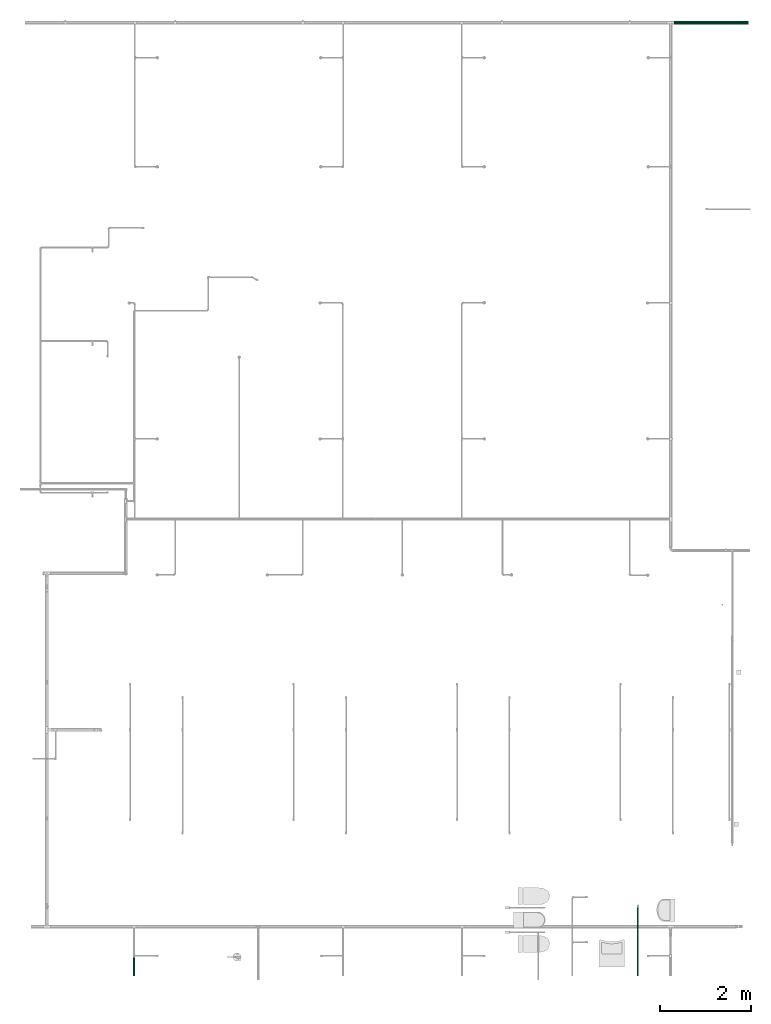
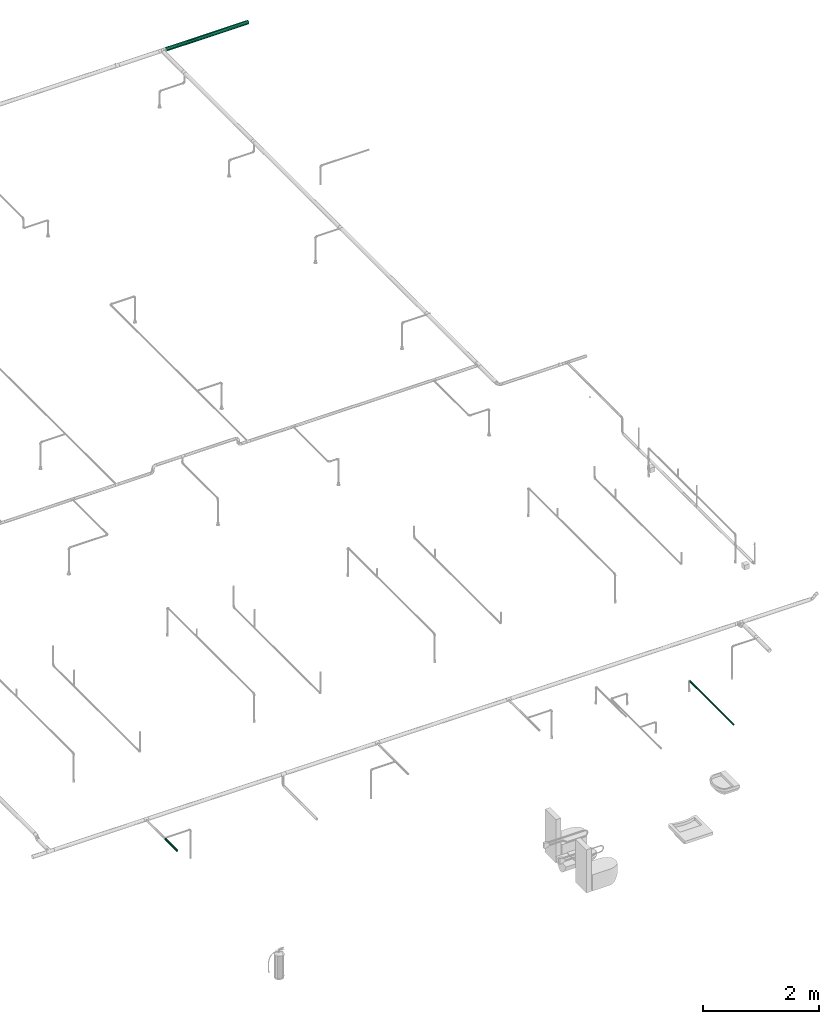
# One storey, part 82 of 95: 3 flow segments.
"""IFC2X3 building model written with IfcOpenShell, lengths in millimetres."""

import ifcopenshell
import ifcopenshell.guid

model = None  # the IFC model being written
_history = None  # IfcOwnerHistory: only IFC2X3 demands one
_inside = {}  # id of a spatial element -> (the spatial element, [elements in it])
_under = {}  # id of a project, library or spatial element -> (it, [spatial elements below it])
_declared = {}  # id of a project -> (the project, [libraries it declares])
_typed = {}  # id of a type object -> (the type object, [elements of that type])
_made_of = {}  # id of a material, layer set ... -> (it, [elements and type objects made of it])


def new_model(schema):
    """Start an empty IFC model of exactly this schema.

    Asked for "IFC4X3", IfcOpenShell would pick the latest addendum, in which some entities
    have other attributes; the version numbers below select the first issue.
    IFC2X3 requires an IfcOwnerHistory on every rooted entity: one is made here for all.
    """
    global model, _history
    if schema == "IFC4X3":
        model = ifcopenshell.file(schema_version=(4, 3, 0, 0))
    else:
        model = ifcopenshell.file(schema=schema)
    _inside.clear()
    _under.clear()
    _declared.clear()
    _typed.clear()
    _made_of.clear()
    _history = None
    if model.schema == "IFC2X3":
        org = make("IfcOrganization", Name="unknown")
        user = make(
            "IfcPersonAndOrganization",
            ThePerson=make("IfcPerson", FamilyName="unknown"),
            TheOrganization=org,
        )
        app = make(
            "IfcApplication",
            ApplicationDeveloper=org,
            Version="unknown",
            ApplicationFullName="unknown",
            ApplicationIdentifier="unknown",
        )
        _history = make(
            "IfcOwnerHistory",
            OwningUser=user,
            OwningApplication=app,
            ChangeAction="ADDED",
            CreationDate=0,
        )
    return model


def make(cls, **values):
    """One entity of the class cls with the attributes given. An attribute that is None is left unset."""
    return model.create_entity(
        cls, **{name: value for name, value in values.items() if value is not None}
    )


def entity(cls, *values):
    """Any entity or typed value of the class cls, its attributes in the order of the schema. None: left unset."""
    e = model.create_entity(cls)
    for i, value in enumerate(values):
        if value is not None:
            e[i] = value
    return e


def rooted(cls, **values):
    """An entity with a GlobalId (a new one), such as an element, a storey or a relation."""
    return make(cls, GlobalId=ifcopenshell.guid.new(), OwnerHistory=_history, **values)


def si_unit(unit_type, name, prefix=None):
    """IfcSIUnit, for example si_unit("LENGTHUNIT", "METRE", prefix="MILLI")."""
    return make("IfcSIUnit", UnitType=unit_type, Prefix=prefix, Name=name)


def converted_unit(unit_type, name, factor, base, dimensions=None, offset=None):
    """IfcConversionBasedUnit, such as the inch: factor (a typed value) times the base unit."""
    return make(
        "IfcConversionBasedUnit"
        if offset is None
        else "IfcConversionBasedUnitWithOffset",
        ConversionOffset=offset,
        Dimensions=None
        if dimensions is None
        else entity("IfcDimensionalExponents", *dimensions),
        UnitType=unit_type,
        Name=name,
        ConversionFactor=make(
            "IfcMeasureWithUnit", ValueComponent=factor, UnitComponent=base
        ),
    )


def derived_unit(unit_type, elements):
    """IfcDerivedUnit: a product of units, each with its exponent."""
    return make(
        "IfcDerivedUnit",
        Elements=[
            make("IfcDerivedUnitElement", Unit=unit, Exponent=power)
            for unit, power in elements
        ],
        UnitType=unit_type,
    )


def assignment(units):
    """IfcUnitAssignment: the units of a project."""
    return None if units is None else make("IfcUnitAssignment", Units=units)


def point(xyz):
    """IfcCartesianPoint."""
    return None if xyz is None else make("IfcCartesianPoint", Coordinates=xyz)


def direction(xyz):
    """IfcDirection."""
    return None if xyz is None else make("IfcDirection", DirectionRatios=xyz)


def frame(location, z_axis=None, x_axis=None):
    """IfcAxis2Placement3D, a coordinate frame: its origin and axes. An axis left out is left unset."""
    return make(
        "IfcAxis2Placement3D",
        Location=point(location),
        Axis=direction(z_axis),
        RefDirection=direction(x_axis),
    )


def place(relative_to, where):
    """IfcLocalPlacement: puts the frame where relative to a parent placement (None: the world)."""
    return make(
        "IfcLocalPlacement", PlacementRelTo=relative_to, RelativePlacement=where
    )


def context(
    kind, dimensions, precision=None, world=None, true_north=None, identifier=None
):
    """IfcGeometricRepresentationContext, for example the 3D "Model" context."""
    return make(
        "IfcGeometricRepresentationContext",
        ContextIdentifier=identifier,
        ContextType=kind,
        CoordinateSpaceDimension=dimensions,
        Precision=precision,
        WorldCoordinateSystem=world,
        TrueNorth=true_north,
    )


def subcontext(parent, identifier, kind, view, scale=None):
    """IfcGeometricRepresentationSubContext, for example "Body" below "Model"."""
    return make(
        "IfcGeometricRepresentationSubContext",
        ContextIdentifier=identifier,
        ContextType=kind,
        ParentContext=parent,
        TargetScale=scale,
        TargetView=view,
    )


def project(units=None, contexts=None):
    """IfcProject with its units and contexts."""
    return rooted(
        "IfcProject",
        Name="project",
        RepresentationContexts=contexts,
        UnitsInContext=assignment(units),
    )


def spatial(cls, under=None, at=None, **own):
    """A site, building, storey or space (cls), placed at a placement, below another one or the project."""
    s = rooted(cls, ObjectPlacement=at, **own)
    if under is not None:
        _under.setdefault(under.id(), (under, []))[1].append(s)
    return s


def faces_of(points, faces, orient=None, outer=None):
    """IfcFace entities. A face is a list of loops; a loop is a list of indices into points, from 0.

    orient and outer hold one flag for each loop. By default every Orientation is true, the
    first loop of a face is its IfcFaceOuterBound and the others are IfcFaceBound.
    """
    made = []
    for i, loops in enumerate(faces):
        bounds = []
        for j, loop in enumerate(loops):
            is_outer = j == 0 if outer is None else outer[i][j]
            bounds.append(
                make(
                    "IfcFaceOuterBound" if is_outer else "IfcFaceBound",
                    Bound=make("IfcPolyLoop", Polygon=[points[k] for k in loop]),
                    Orientation=True if orient is None else orient[i][j],
                )
            )
        made.append(make("IfcFace", Bounds=bounds))
    return made


def faceted_brep(points, faces, orient=None, outer=None, voids=None):
    """IfcFacetedBrep: a solid bounded by flat faces; with voids (closed shells), ...WithVoids."""
    shared = [point(p) for p in points]
    hull = make("IfcClosedShell", CfsFaces=faces_of(shared, faces, orient, outer))
    if voids is None:
        return make("IfcFacetedBrep", Outer=hull)
    return make(
        "IfcFacetedBrepWithVoids",
        Outer=hull,
        Voids=[
            make(cls, CfsFaces=faces_of(shared, fs, o, b)) for cls, fs, o, b in voids
        ],
    )


def shape(context_of_items, identifier, shape_type, items):
    """IfcShapeRepresentation: the items that make up one representation, for example the "Body"."""
    return make(
        "IfcShapeRepresentation",
        ContextOfItems=context_of_items,
        RepresentationIdentifier=identifier,
        RepresentationType=shape_type,
        Items=items,
    )


def made_of(thing, what):
    """Note that an element or type object is made of a material, layer set ...; save() writes the relation."""
    if what is not None:
        _made_of.setdefault(what.id(), (what, []))[1].append(thing)
    return thing


def type_object(cls, material=None, **own):
    """A type object (cls), such as IfcWallType, which elements share."""
    return made_of(rooted(cls, **own), material)


def element(
    cls,
    number,
    at=None,
    inside=None,
    cuts=None,
    type_object=None,
    material=None,
    context=None,
    identifier="Body",
    shape_type=None,
    held_by="IfcProductDefinitionShape",
    body=None,
    shapes=None,
    **own,
):
    """One element of the class cls, such as IfcWall. Its Tag is "e" and its number.

    at: its placement. inside: the storey or other place that contains it. cuts: it is an
    opening in that element (IfcRelVoidsElement). A single representation is given by context,
    identifier, shape_type and body (its items); several are given by shapes. held_by: the class
    of the entity that holds the representations. save() writes the other relations.
    """
    e = rooted(cls, Tag="e%d" % number, ObjectPlacement=at, **own)
    if body is not None:
        shapes = [shape(context, identifier, shape_type, body)]
    if shapes is not None:
        e.Representation = make(held_by, Representations=shapes)
    if inside is not None:
        _inside.setdefault(inside.id(), (inside, []))[1].append(e)
    if cuts is not None:
        rooted(
            "IfcRelVoidsElement", RelatingBuildingElement=cuts, RelatedOpeningElement=e
        )
    if type_object is not None:
        _typed.setdefault(type_object.id(), (type_object, []))[1].append(e)
    return made_of(e, material)


def aggregate(whole, parts):
    """IfcRelAggregates: a whole, such as a stair, and the parts it consists of."""
    return rooted("IfcRelAggregates", RelatingObject=whole, RelatedObjects=parts)


def save(model, path):
    """Write the relations noted so far, then the file.

    IfcRelAggregates (storeys below a building ...), IfcRelContainedInSpatialStructure (elements
    in a storey), IfcRelDefinesByType, IfcRelAssociatesMaterial and IfcRelDeclares: one each for
    every whole, place, type object, material and project.
    """
    for whole, parts in _under.values():
        aggregate(whole, parts)
    for where, things in _inside.values():
        rooted(
            "IfcRelContainedInSpatialStructure",
            RelatedElements=things,
            RelatingStructure=where,
        )
    for kind, things in _typed.values():
        rooted("IfcRelDefinesByType", RelatedObjects=things, RelatingType=kind)
    for what, things in _made_of.values():
        rooted("IfcRelAssociatesMaterial", RelatedObjects=things, RelatingMaterial=what)
    for by, libraries in _declared.values():
        rooted("IfcRelDeclares", RelatingContext=by, RelatedDefinitions=libraries)
    model.write(path)


model = new_model("IFC2X3")

# Units and contexts
model_context = context("Model", 3, precision=0.01, world=frame((0.0, 4.29681676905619e-09, 0.0)), true_north=direction((4.01073788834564e-13, 1.0)))
plan_context = context("Plan", 3, precision=0.01, world=frame((0.0, 4.29681676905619e-09, 0.0)), true_north=direction((4.01073788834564e-13, 1.0)))
body_context = subcontext(model_context, "Body", "Model", "MODEL_VIEW")
ifc_project = project(units=[converted_unit("PLANEANGLEUNIT", "DEGREE", entity("IfcPositiveLengthMeasure", 0.0174532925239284), si_unit("PLANEANGLEUNIT", "RADIAN"), dimensions=[0, 0, 0, 0, 0, 0, 0]), si_unit("AREAUNIT", "SQUARE_METRE"), si_unit("LENGTHUNIT", "METRE", prefix="MILLI"), si_unit("MASSUNIT", "GRAM", prefix="KILO"), si_unit("POWERUNIT", "WATT"), si_unit("PRESSUREUNIT", "PASCAL"), si_unit("FORCEUNIT", "NEWTON", prefix="KILO"), si_unit("ELECTRICVOLTAGEUNIT", "VOLT"), si_unit("ELECTRICCURRENTUNIT", "AMPERE"), si_unit("THERMODYNAMICTEMPERATUREUNIT", "DEGREE_CELSIUS"), si_unit("TIMEUNIT", "SECOND"), si_unit("VOLUMEUNIT", "CUBIC_METRE"), derived_unit("LINEARVELOCITYUNIT", [(si_unit("LENGTHUNIT", "METRE"), 1), (si_unit("TIMEUNIT", "SECOND"), -1)]), derived_unit("VOLUMETRICFLOWRATEUNIT", [(si_unit("VOLUMEUNIT", "CUBIC_METRE"), 1), (si_unit("TIMEUNIT", "SECOND"), -1)]), derived_unit("THERMALTRANSMITTANCEUNIT", [(si_unit("POWERUNIT", "WATT"), 1), (si_unit("THERMODYNAMICTEMPERATUREUNIT", "KELVIN"), -1), (si_unit("AREAUNIT", "SQUARE_METRE"), -1)]), derived_unit("SOUNDPRESSUREUNIT", [(si_unit("PRESSUREUNIT", "PASCAL"), 1)])], contexts=[model_context, plan_context])

# Site, building, storey
site_placement = place(None, frame((0.0, -4.29681676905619e-09, 0.0), z_axis=(0.0, 0.0, 1.0), x_axis=(1.0, 0.0, 0.0)))
site = spatial("IfcSite", under=ifc_project, at=site_placement, CompositionType="ELEMENT")
building_placement = place(site_placement, frame((0.0, 4.29681676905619e-09, 0.0), z_axis=(0.0, 0.0, 1.0), x_axis=(1.0, 0.0, 0.0)))
building = spatial("IfcBuilding", under=site, at=building_placement, Name="mc-building", CompositionType="ELEMENT")
storey_placement = place(building_placement, frame((0.0, 0.0, 210900.0), z_axis=(0.0, 0.0, 1.0), x_axis=(1.0, 0.0, 0.0)))
storey = spatial("IfcBuildingStorey", under=building, at=storey_placement, Name="Nivå F", CompositionType="ELEMENT", Elevation=210900.0)

# Flow segments
pipe_segment_type = type_object("IfcPipeSegmentType", Name="Stålrør normaltykke", PredefinedType="RIGIDSEGMENT")
flow_segment_1_placement = place(storey_placement, frame((534678.9875, 461774.3, 4310.0), z_axis=(0.0, 0.0, 1.0), x_axis=(1.0, 0.0, 0.0)))
element("IfcFlowSegment", 1, at=flow_segment_1_placement, inside=storey, type_object=pipe_segment_type, Name="Stålrør normaltykke", context=body_context, shape_type="Brep", body=[
    faceted_brep([(1641.51250000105, 36.0, 0.0), (1641.51250000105, 35.4530791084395, -6.25133439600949), (0.0, 35.4530791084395, -6.25133439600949), (0.0, 36.0, 0.0), (1641.51250000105, 33.8289343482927, -12.3127251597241), (0.0, 33.8289343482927, -12.3127251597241), (1641.51250000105, 31.1769145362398, -18.0), (0.0, 31.1769145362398, -18.0), (1641.51250000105, 27.5775999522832, -23.1403539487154), (0.0, 27.5775999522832, -23.1403539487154), (1641.51250000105, 23.1403539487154, -27.5775999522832), (0.0, 23.1403539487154, -27.5775999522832), (1641.51250000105, 18.0, -31.1769145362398), (0.0, 18.0, -31.1769145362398), (1641.51250000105, 12.3127251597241, -33.8289343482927), (0.0, 12.3127251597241, -33.8289343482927), (1641.51250000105, 6.25133439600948, -35.4530791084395), (0.0, 6.25133439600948, -35.4530791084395), (1641.51250000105, -6.61309271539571e-15, -36.0), (0.0, -6.61309271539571e-15, -36.0), (1641.51250000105, -6.25133439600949, -35.4530791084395), (0.0, -6.25133439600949, -35.4530791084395), (1641.51250000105, -12.3127251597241, -33.8289343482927), (0.0, -12.3127251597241, -33.8289343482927), (1641.51250000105, -18.0, -31.1769145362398), (0.0, -18.0, -31.1769145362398), (1641.51250000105, -23.1403539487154, -27.5775999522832), (0.0, -23.1403539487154, -27.5775999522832), (1641.51250000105, -27.5775999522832, -23.1403539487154), (0.0, -27.5775999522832, -23.1403539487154), (1641.51250000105, -31.1769145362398, -18.0), (0.0, -31.1769145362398, -18.0), (1641.51250000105, -33.8289343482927, -12.3127251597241), (0.0, -33.8289343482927, -12.3127251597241), (1641.51250000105, -35.4530791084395, -6.25133439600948), (0.0, -35.4530791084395, -6.25133439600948), (1641.51250000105, -36.0, 4.40872847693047e-15), (0.0, -36.0, 4.40872847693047e-15), (1641.51250000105, -35.4530791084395, 6.25133439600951), (0.0, -35.4530791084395, 6.25133439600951), (1641.51250000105, -33.8289343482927, 12.3127251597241), (0.0, -33.8289343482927, 12.3127251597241), (1641.51250000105, -31.1769145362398, 18.0), (0.0, -31.1769145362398, 18.0), (1641.51250000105, -27.5775999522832, 23.1403539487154), (0.0, -27.5775999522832, 23.1403539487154), (1641.51250000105, -23.1403539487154, 27.5775999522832), (0.0, -23.1403539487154, 27.5775999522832), (1641.51250000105, -18.0, 31.1769145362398), (0.0, -18.0, 31.1769145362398), (1641.51250000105, -12.3127251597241, 33.8289343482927), (0.0, -12.3127251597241, 33.8289343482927), (1641.51250000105, -6.25133439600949, 35.4530791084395), (0.0, -6.25133439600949, 35.4530791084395), (1641.51250000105, 2.20436423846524e-15, 36.0), (0.0, 2.20436423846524e-15, 36.0), (1641.51250000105, 6.2513343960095, 35.4530791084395), (0.0, 6.2513343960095, 35.4530791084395), (1641.51250000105, 12.3127251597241, 33.8289343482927), (0.0, 12.3127251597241, 33.8289343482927), (1641.51250000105, 18.0, 31.1769145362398), (0.0, 18.0, 31.1769145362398), (1641.51250000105, 23.1403539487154, 27.5775999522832), (0.0, 23.1403539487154, 27.5775999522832), (1641.51250000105, 27.5775999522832, 23.1403539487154), (0.0, 27.5775999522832, 23.1403539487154), (1641.51250000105, 31.1769145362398, 18.0), (0.0, 31.1769145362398, 18.0), (1641.51250000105, 33.8289343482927, 12.3127251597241), (0.0, 33.8289343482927, 12.3127251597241), (1641.51250000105, 35.4530791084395, 6.25133439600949), (0.0, 35.4530791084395, 6.25133439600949), (1641.51250000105, 37.4226946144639, -6.59863075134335), (1641.51250000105, 38.0, 0.0), (0.0, 38.0, 0.0), (0.0, 37.4226946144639, -6.59863075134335), (1641.51250000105, 37.4226946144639, 6.59863075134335), (0.0, 37.4226946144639, 6.59863075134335), (1641.51250000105, 35.7083195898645, 12.9967654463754), (0.0, 35.7083195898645, 12.9967654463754), (1641.51250000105, 32.9089653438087, 19.0), (0.0, 32.9089653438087, 19.0), (1641.51250000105, 29.1096888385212, 24.4259291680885), (0.0, 29.1096888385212, 24.4259291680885), (1641.51250000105, 24.4259291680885, 29.1096888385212), (0.0, 24.4259291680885, 29.1096888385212), (1641.51250000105, 19.0, 32.9089653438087), (0.0, 19.0, 32.9089653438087), (1641.51250000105, 12.9967654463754, 35.7083195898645), (0.0, 12.9967654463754, 35.7083195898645), (1641.51250000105, 6.59863075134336, 37.4226946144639), (0.0, 6.59863075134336, 37.4226946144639), (1641.51250000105, 2.32682891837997e-15, 38.0), (0.0, 2.32682891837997e-15, 38.0), (1641.51250000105, -6.59863075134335, 37.4226946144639), (0.0, -6.59863075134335, 37.4226946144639), (1641.51250000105, -12.9967654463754, 35.7083195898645), (0.0, -12.9967654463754, 35.7083195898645), (1641.51250000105, -19.0, 32.9089653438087), (0.0, -19.0, 32.9089653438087), (1641.51250000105, -24.4259291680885, 29.1096888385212), (0.0, -24.4259291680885, 29.1096888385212), (1641.51250000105, -29.1096888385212, 24.4259291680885), (0.0, -29.1096888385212, 24.4259291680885), (1641.51250000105, -32.9089653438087, 19.0), (0.0, -32.9089653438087, 19.0), (1641.51250000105, -35.7083195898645, 12.9967654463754), (0.0, -35.7083195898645, 12.9967654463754), (1641.51250000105, -37.4226946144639, 6.59863075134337), (0.0, -37.4226946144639, 6.59863075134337), (1641.51250000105, -38.0, 4.65365783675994e-15), (0.0, -38.0, 4.65365783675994e-15), (1641.51250000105, -37.4226946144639, -6.59863075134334), (0.0, -37.4226946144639, -6.59863075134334), (1641.51250000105, -35.7083195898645, -12.9967654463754), (0.0, -35.7083195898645, -12.9967654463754), (1641.51250000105, -32.9089653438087, -19.0), (0.0, -32.9089653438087, -19.0), (1641.51250000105, -29.1096888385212, -24.4259291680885), (0.0, -29.1096888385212, -24.4259291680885), (1641.51250000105, -24.4259291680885, -29.1096888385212), (0.0, -24.4259291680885, -29.1096888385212), (1641.51250000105, -19.0, -32.9089653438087), (0.0, -19.0, -32.9089653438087), (1641.51250000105, -12.9967654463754, -35.7083195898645), (0.0, -12.9967654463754, -35.7083195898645), (1641.51250000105, -6.59863075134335, -37.4226946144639), (0.0, -6.59863075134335, -37.4226946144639), (1641.51250000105, -6.98048675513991e-15, -38.0), (0.0, -6.98048675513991e-15, -38.0), (1641.51250000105, 6.59863075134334, -37.4226946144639), (0.0, 6.59863075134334, -37.4226946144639), (1641.51250000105, 12.9967654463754, -35.7083195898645), (0.0, 12.9967654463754, -35.7083195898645), (1641.51250000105, 19.0, -32.9089653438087), (0.0, 19.0, -32.9089653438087), (1641.51250000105, 24.4259291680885, -29.1096888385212), (0.0, 24.4259291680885, -29.1096888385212), (1641.51250000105, 29.1096888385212, -24.4259291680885), (0.0, 29.1096888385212, -24.4259291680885), (1641.51250000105, 32.9089653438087, -19.0), (0.0, 32.9089653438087, -19.0), (1641.51250000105, 35.7083195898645, -12.9967654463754), (0.0, 35.7083195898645, -12.9967654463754)], [[[0, 1, 2, 3]], [[1, 4, 5, 2]], [[4, 6, 7, 5]], [[6, 8, 9, 7]], [[8, 10, 11, 9]], [[10, 12, 13, 11]], [[12, 14, 15, 13]], [[14, 16, 17, 15]], [[16, 18, 19, 17]], [[18, 20, 21, 19]], [[20, 22, 23, 21]], [[22, 24, 25, 23]], [[24, 26, 27, 25]], [[26, 28, 29, 27]], [[28, 30, 31, 29]], [[30, 32, 33, 31]], [[32, 34, 35, 33]], [[34, 36, 37, 35]], [[36, 38, 39, 37]], [[38, 40, 41, 39]], [[40, 42, 43, 41]], [[42, 44, 45, 43]], [[44, 46, 47, 45]], [[46, 48, 49, 47]], [[48, 50, 51, 49]], [[50, 52, 53, 51]], [[52, 54, 55, 53]], [[54, 56, 57, 55]], [[56, 58, 59, 57]], [[58, 60, 61, 59]], [[60, 62, 63, 61]], [[62, 64, 65, 63]], [[64, 66, 67, 65]], [[66, 68, 69, 67]], [[68, 70, 71, 69]], [[70, 0, 3, 71]], [[72, 73, 74, 75]], [[73, 76, 77, 74]], [[76, 78, 79, 77]], [[78, 80, 81, 79]], [[80, 82, 83, 81]], [[82, 84, 85, 83]], [[84, 86, 87, 85]], [[86, 88, 89, 87]], [[88, 90, 91, 89]], [[90, 92, 93, 91]], [[92, 94, 95, 93]], [[94, 96, 97, 95]], [[96, 98, 99, 97]], [[98, 100, 101, 99]], [[100, 102, 103, 101]], [[102, 104, 105, 103]], [[104, 106, 107, 105]], [[106, 108, 109, 107]], [[108, 110, 111, 109]], [[110, 112, 113, 111]], [[112, 114, 115, 113]], [[114, 116, 117, 115]], [[116, 118, 119, 117]], [[118, 120, 121, 119]], [[120, 122, 123, 121]], [[122, 124, 125, 123]], [[124, 126, 127, 125]], [[126, 128, 129, 127]], [[128, 130, 131, 129]], [[130, 132, 133, 131]], [[132, 134, 135, 133]], [[134, 136, 137, 135]], [[136, 138, 139, 137]], [[138, 140, 141, 139]], [[140, 142, 143, 141]], [[142, 72, 75, 143]], [[75, 74, 77, 79, 81, 83, 85, 87, 89, 91, 93, 95, 97, 99, 101, 103, 105, 107, 109, 111, 113, 115, 117, 119, 121, 123, 125, 127, 129, 131, 133, 135, 137, 139, 141, 143], [3, 2, 5, 7, 9, 11, 13, 15, 17, 19, 21, 23, 25, 27, 29, 31, 33, 35, 37, 39, 41, 43, 45, 47, 49, 51, 53, 55, 57, 59, 61, 63, 65, 67, 69, 71]], [[142, 140, 138, 136, 134, 132, 130, 128, 126, 124, 122, 120, 118, 116, 114, 112, 110, 108, 106, 104, 102, 100, 98, 96, 94, 92, 90, 88, 86, 84, 82, 80, 78, 76, 73, 72], [70, 68, 66, 64, 62, 60, 58, 56, 54, 52, 50, 48, 46, 44, 42, 40, 38, 36, 34, 32, 30, 28, 26, 24, 22, 20, 18, 16, 14, 12, 10, 8, 6, 4, 1, 0]]], orient=[[False], [False], [False], [False], [False], [False], [False], [False], [False], [False], [False], [False], [False], [False], [False], [False], [False], [False], [False], [False], [False], [False], [False], [False], [False], [False], [False], [False], [False], [False], [False], [False], [False], [False], [False], [False], [False], [False], [False], [False], [False], [False], [False], [False], [False], [False], [False], [False], [False], [False], [False], [False], [False], [False], [False], [False], [False], [False], [False], [False], [False], [False], [False], [False], [False], [False], [False], [False], [False], [False], [False], [False], [False, False], [False, False]]),
])
flow_segment_2_placement = place(storey_placement, frame((522779.7291, 441180.91498, 4310.0), z_axis=(0.0, 0.0, 1.0), x_axis=(0.0, -1.0, 0.0)))
element("IfcFlowSegment", 2, at=flow_segment_2_placement, inside=storey, type_object=pipe_segment_type, Name="Stålrør normaltykke", context=body_context, shape_type="Brep", body=[
    faceted_brep([(405.914980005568, 19.2, 0.0), (405.914980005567, 18.9083088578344, -3.33404501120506), (0.0, 18.9083088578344, -3.33404501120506), (0.0, 19.2, 0.0), (405.914980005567, 18.0420983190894, -6.56678675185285), (0.0, 18.0420983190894, -6.56678675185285), (405.914980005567, 16.6276877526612, -9.60000000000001), (0.0, 16.6276877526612, -9.60000000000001), (405.914980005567, 14.7080533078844, -12.3415221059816), (0.0, 14.7080533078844, -12.3415221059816), (405.914980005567, 12.3415221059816, -14.7080533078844), (0.0, 12.3415221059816, -14.7080533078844), (405.914980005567, 9.6, -16.6276877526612), (0.0, 9.6, -16.6276877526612), (405.914980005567, 6.56678675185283, -18.0420983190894), (0.0, 6.56678675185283, -18.0420983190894), (405.914980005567, 3.33404501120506, -18.9083088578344), (0.0, 3.33404501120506, -18.9083088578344), (405.914980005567, -3.52698278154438e-15, -19.2), (0.0, -3.52698278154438e-15, -19.2), (405.914980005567, -3.33404501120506, -18.9083088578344), (0.0, -3.33404501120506, -18.9083088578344), (405.914980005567, -6.56678675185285, -18.0420983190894), (0.0, -6.56678675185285, -18.0420983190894), (405.914980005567, -9.60000000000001, -16.6276877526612), (0.0, -9.60000000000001, -16.6276877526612), (405.914980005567, -12.3415221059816, -14.7080533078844), (0.0, -12.3415221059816, -14.7080533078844), (405.914980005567, -14.7080533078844, -12.3415221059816), (0.0, -14.7080533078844, -12.3415221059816), (405.914980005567, -16.6276877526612, -9.59999999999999), (0.0, -16.6276877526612, -9.59999999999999), (405.914980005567, -18.0420983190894, -6.56678675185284), (0.0, -18.0420983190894, -6.56678675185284), (405.914980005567, -18.9083088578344, -3.33404501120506), (0.0, -18.9083088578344, -3.33404501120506), (405.914980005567, -19.2, 2.35132185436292e-15), (0.0, -19.2, 2.35132185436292e-15), (405.914980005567, -18.9083088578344, 3.33404501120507), (0.0, -18.9083088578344, 3.33404501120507), (405.914980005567, -18.0420983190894, 6.56678675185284), (0.0, -18.0420983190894, 6.56678675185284), (405.914980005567, -16.6276877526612, 9.6), (0.0, -16.6276877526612, 9.6), (405.914980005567, -14.7080533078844, 12.3415221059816), (0.0, -14.7080533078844, 12.3415221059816), (405.914980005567, -12.3415221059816, 14.7080533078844), (0.0, -12.3415221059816, 14.7080533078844), (405.914980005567, -9.6, 16.6276877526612), (0.0, -9.6, 16.6276877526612), (405.914980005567, -6.56678675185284, 18.0420983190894), (0.0, -6.56678675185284, 18.0420983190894), (405.914980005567, -3.33404501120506, 18.9083088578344), (0.0, -3.33404501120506, 18.9083088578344), (405.914980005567, 1.17566092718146e-15, 19.2), (0.0, 1.17566092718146e-15, 19.2), (405.914980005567, 3.33404501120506, 18.9083088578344), (0.0, 3.33404501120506, 18.9083088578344), (405.914980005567, 6.56678675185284, 18.0420983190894), (0.0, 6.56678675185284, 18.0420983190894), (405.914980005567, 9.6, 16.6276877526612), (0.0, 9.6, 16.6276877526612), (405.914980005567, 12.3415221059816, 14.7080533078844), (0.0, 12.3415221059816, 14.7080533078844), (405.914980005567, 14.7080533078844, 12.3415221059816), (0.0, 14.7080533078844, 12.3415221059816), (405.914980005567, 16.6276877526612, 9.6), (0.0, 16.6276877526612, 9.6), (405.914980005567, 18.0420983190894, 6.56678675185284), (0.0, 18.0420983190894, 6.56678675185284), (405.914980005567, 18.9083088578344, 3.33404501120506), (0.0, 18.9083088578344, 3.33404501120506), (405.914980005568, 20.8779243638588, -3.68134136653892), (405.914980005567, 21.2, 0.0), (0.0, 21.2, 0.0), (0.0, 20.8779243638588, -3.68134136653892), (405.914980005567, 20.8779243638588, 3.68134136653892), (0.0, 20.8779243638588, 3.68134136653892), (405.914980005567, 19.9214835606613, 7.25082703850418), (0.0, 19.9214835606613, 7.25082703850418), (405.914980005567, 18.3597385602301, 10.6), (0.0, 18.3597385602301, 10.6), (405.914980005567, 16.2401421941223, 13.6270973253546), (0.0, 16.2401421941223, 13.6270973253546), (405.914980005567, 13.6270973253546, 16.2401421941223), (0.0, 13.6270973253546, 16.2401421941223), (405.914980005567, 10.6, 18.3597385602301), (0.0, 10.6, 18.3597385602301), (405.914980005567, 7.25082703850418, 19.9214835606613), (0.0, 7.25082703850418, 19.9214835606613), (405.914980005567, 3.68134136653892, 20.8779243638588), (0.0, 3.68134136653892, 20.8779243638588), (405.914980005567, 1.29812560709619e-15, 21.2), (0.0, 1.29812560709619e-15, 21.2), (405.914980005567, -3.68134136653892, 20.8779243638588), (0.0, -3.68134136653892, 20.8779243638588), (405.914980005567, -7.25082703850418, 19.9214835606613), (0.0, -7.25082703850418, 19.9214835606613), (405.914980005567, -10.6, 18.3597385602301), (0.0, -10.6, 18.3597385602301), (405.914980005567, -13.6270973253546, 16.2401421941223), (0.0, -13.6270973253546, 16.2401421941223), (405.914980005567, -16.2401421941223, 13.6270973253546), (0.0, -16.2401421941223, 13.6270973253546), (405.914980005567, -18.3597385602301, 10.6), (0.0, -18.3597385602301, 10.6), (405.914980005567, -19.9214835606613, 7.25082703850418), (0.0, -19.9214835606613, 7.25082703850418), (405.914980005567, -20.8779243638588, 3.68134136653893), (0.0, -20.8779243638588, 3.68134136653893), (405.914980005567, -21.2, 2.59625121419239e-15), (0.0, -21.2, 2.59625121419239e-15), (405.914980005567, -20.8779243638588, -3.68134136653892), (0.0, -20.8779243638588, -3.68134136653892), (405.914980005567, -19.9214835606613, -7.25082703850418), (0.0, -19.9214835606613, -7.25082703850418), (405.914980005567, -18.3597385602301, -10.6), (0.0, -18.3597385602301, -10.6), (405.914980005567, -16.2401421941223, -13.6270973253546), (0.0, -16.2401421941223, -13.6270973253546), (405.914980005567, -13.6270973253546, -16.2401421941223), (0.0, -13.6270973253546, -16.2401421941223), (405.914980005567, -10.6, -18.3597385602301), (0.0, -10.6, -18.3597385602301), (405.914980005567, -7.25082703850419, -19.9214835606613), (0.0, -7.25082703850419, -19.9214835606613), (405.914980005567, -3.68134136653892, -20.8779243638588), (0.0, -3.68134136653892, -20.8779243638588), (405.914980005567, -3.89437682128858e-15, -21.2), (0.0, -3.89437682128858e-15, -21.2), (405.914980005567, 3.68134136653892, -20.8779243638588), (0.0, 3.68134136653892, -20.8779243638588), (405.914980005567, 7.25082703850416, -19.9214835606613), (0.0, 7.25082703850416, -19.9214835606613), (405.914980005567, 10.6, -18.3597385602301), (0.0, 10.6, -18.3597385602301), (405.914980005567, 13.6270973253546, -16.2401421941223), (0.0, 13.6270973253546, -16.2401421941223), (405.914980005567, 16.2401421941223, -13.6270973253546), (0.0, 16.2401421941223, -13.6270973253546), (405.914980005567, 18.3597385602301, -10.6), (0.0, 18.3597385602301, -10.6), (405.914980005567, 19.9214835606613, -7.25082703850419), (0.0, 19.9214835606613, -7.25082703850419)], [[[0, 1, 2, 3]], [[1, 4, 5, 2]], [[4, 6, 7, 5]], [[6, 8, 9, 7]], [[8, 10, 11, 9]], [[10, 12, 13, 11]], [[12, 14, 15, 13]], [[14, 16, 17, 15]], [[16, 18, 19, 17]], [[18, 20, 21, 19]], [[20, 22, 23, 21]], [[22, 24, 25, 23]], [[24, 26, 27, 25]], [[26, 28, 29, 27]], [[28, 30, 31, 29]], [[30, 32, 33, 31]], [[32, 34, 35, 33]], [[34, 36, 37, 35]], [[36, 38, 39, 37]], [[38, 40, 41, 39]], [[40, 42, 43, 41]], [[42, 44, 45, 43]], [[44, 46, 47, 45]], [[46, 48, 49, 47]], [[48, 50, 51, 49]], [[50, 52, 53, 51]], [[52, 54, 55, 53]], [[54, 56, 57, 55]], [[56, 58, 59, 57]], [[58, 60, 61, 59]], [[60, 62, 63, 61]], [[62, 64, 65, 63]], [[64, 66, 67, 65]], [[66, 68, 69, 67]], [[68, 70, 71, 69]], [[70, 0, 3, 71]], [[72, 73, 74, 75]], [[73, 76, 77, 74]], [[76, 78, 79, 77]], [[78, 80, 81, 79]], [[80, 82, 83, 81]], [[82, 84, 85, 83]], [[84, 86, 87, 85]], [[86, 88, 89, 87]], [[88, 90, 91, 89]], [[90, 92, 93, 91]], [[92, 94, 95, 93]], [[94, 96, 97, 95]], [[96, 98, 99, 97]], [[98, 100, 101, 99]], [[100, 102, 103, 101]], [[102, 104, 105, 103]], [[104, 106, 107, 105]], [[106, 108, 109, 107]], [[108, 110, 111, 109]], [[110, 112, 113, 111]], [[112, 114, 115, 113]], [[114, 116, 117, 115]], [[116, 118, 119, 117]], [[118, 120, 121, 119]], [[120, 122, 123, 121]], [[122, 124, 125, 123]], [[124, 126, 127, 125]], [[126, 128, 129, 127]], [[128, 130, 131, 129]], [[130, 132, 133, 131]], [[132, 134, 135, 133]], [[134, 136, 137, 135]], [[136, 138, 139, 137]], [[138, 140, 141, 139]], [[140, 142, 143, 141]], [[142, 72, 75, 143]], [[75, 74, 77, 79, 81, 83, 85, 87, 89, 91, 93, 95, 97, 99, 101, 103, 105, 107, 109, 111, 113, 115, 117, 119, 121, 123, 125, 127, 129, 131, 133, 135, 137, 139, 141, 143], [3, 2, 5, 7, 9, 11, 13, 15, 17, 19, 21, 23, 25, 27, 29, 31, 33, 35, 37, 39, 41, 43, 45, 47, 49, 51, 53, 55, 57, 59, 61, 63, 65, 67, 69, 71]], [[142, 140, 138, 136, 134, 132, 130, 128, 126, 124, 122, 120, 118, 116, 114, 112, 110, 108, 106, 104, 102, 100, 98, 96, 94, 92, 90, 88, 86, 84, 82, 80, 78, 76, 73, 72], [70, 68, 66, 64, 62, 60, 58, 56, 54, 52, 50, 48, 46, 44, 42, 40, 38, 36, 34, 32, 30, 28, 26, 24, 22, 20, 18, 16, 14, 12, 10, 8, 6, 4, 1, 0]]], orient=[[False], [False], [False], [False], [False], [False], [False], [False], [False], [False], [False], [False], [False], [False], [False], [False], [False], [False], [False], [False], [False], [False], [False], [False], [False], [False], [False], [False], [False], [False], [False], [False], [False], [False], [False], [False], [False], [False], [False], [False], [False], [False], [False], [False], [False], [False], [False], [False], [False], [False], [False], [False], [False], [False], [False], [False], [False], [False], [False], [False], [False], [False], [False], [False], [False], [False], [False], [False], [False], [False], [False], [False], [False, False], [False, False]]),
])
flow_segment_3_placement = place(storey_placement, frame((533884.1403, 442285.61048, 3080.14999999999), z_axis=(0.0, 0.0, 1.0), x_axis=(0.0, -1.0, 0.0)))
element("IfcFlowSegment", 3, at=flow_segment_3_placement, inside=storey, type_object=pipe_segment_type, Name="Stålrør normaltykke", context=body_context, shape_type="Brep", body=[
    faceted_brep([(1510.61048000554, 14.9, 0.0), (1510.61048000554, 14.6736355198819, -2.58735784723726), (0.0, 14.6736355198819, -2.58735784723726), (0.0, 14.9, 0.0), (1510.61048000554, 14.00142004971, -5.09610013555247), (0.0, 14.00142004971, -5.09610013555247), (1510.61048000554, 12.9037785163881, -7.45000000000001), (0.0, 12.9037785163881, -7.45000000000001), (1510.61048000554, 11.4140622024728, -9.57753538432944), (0.0, 11.4140622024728, -9.57753538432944), (1510.61048000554, 9.57753538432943, -11.4140622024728), (0.0, 9.57753538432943, -11.4140622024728), (1510.61048000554, 7.45, -12.9037785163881), (0.0, 7.45, -12.9037785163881), (1510.61048000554, 5.09610013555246, -14.00142004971), (0.0, 5.09610013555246, -14.00142004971), (1510.61048000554, 2.58735784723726, -14.6736355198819), (0.0, 2.58735784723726, -14.6736355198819), (1510.61048000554, -2.73708559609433e-15, -14.9), (0.0, -2.73708559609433e-15, -14.9), (1510.61048000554, -2.58735784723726, -14.6736355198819), (0.0, -2.58735784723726, -14.6736355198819), (1510.61048000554, -5.09610013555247, -14.00142004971), (0.0, -5.09610013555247, -14.00142004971), (1510.61048000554, -7.45000000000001, -12.9037785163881), (0.0, -7.45000000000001, -12.9037785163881), (1510.61048000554, -9.57753538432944, -11.4140622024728), (0.0, -9.57753538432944, -11.4140622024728), (1510.61048000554, -11.4140622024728, -9.57753538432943), (0.0, -11.4140622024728, -9.57753538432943), (1510.61048000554, -12.9037785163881, -7.44999999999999), (0.0, -12.9037785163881, -7.44999999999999), (1510.61048000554, -14.00142004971, -5.09610013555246), (0.0, -14.00142004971, -5.09610013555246), (1510.61048000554, -14.6736355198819, -2.58735784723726), (0.0, -14.6736355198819, -2.58735784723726), (1510.61048000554, -14.9, 1.82472373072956e-15), (0.0, -14.9, 1.82472373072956e-15), (1510.61048000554, -14.6736355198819, 2.58735784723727), (0.0, -14.6736355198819, 2.58735784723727), (1510.61048000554, -14.00142004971, 5.09610013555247), (0.0, -14.00142004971, 5.09610013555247), (1510.61048000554, -12.9037785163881, 7.45), (0.0, -12.9037785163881, 7.45), (1510.61048000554, -11.4140622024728, 9.57753538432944), (0.0, -11.4140622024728, 9.57753538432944), (1510.61048000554, -9.57753538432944, 11.4140622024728), (0.0, -9.57753538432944, 11.4140622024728), (1510.61048000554, -7.45, 12.9037785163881), (0.0, -7.45, 12.9037785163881), (1510.61048000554, -5.09610013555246, 14.00142004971), (0.0, -5.09610013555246, 14.00142004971), (1510.61048000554, -2.58735784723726, 14.6736355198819), (0.0, -2.58735784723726, 14.6736355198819), (1510.61048000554, 9.12361865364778e-16, 14.9), (0.0, 9.12361865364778e-16, 14.9), (1510.61048000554, 2.58735784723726, 14.6736355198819), (0.0, 2.58735784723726, 14.6736355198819), (1510.61048000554, 5.09610013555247, 14.00142004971), (0.0, 5.09610013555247, 14.00142004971), (1510.61048000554, 7.45, 12.9037785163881), (0.0, 7.45, 12.9037785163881), (1510.61048000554, 9.57753538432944, 11.4140622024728), (0.0, 9.57753538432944, 11.4140622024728), (1510.61048000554, 11.4140622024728, 9.57753538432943), (0.0, 11.4140622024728, 9.57753538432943), (1510.61048000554, 12.9037785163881, 7.45), (0.0, 12.9037785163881, 7.45), (1510.61048000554, 14.00142004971, 5.09610013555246), (0.0, 14.00142004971, 5.09610013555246), (1510.61048000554, 14.6736355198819, 2.58735784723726), (0.0, 14.6736355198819, 2.58735784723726), (1510.61048000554, 16.6432510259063, -2.93465420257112), (1510.61048000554, 16.9, 0.0), (0.0, 16.9, 0.0), (0.0, 16.6432510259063, -2.93465420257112), (1510.61048000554, 16.6432510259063, 2.93465420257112), (0.0, 16.6432510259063, 2.93465420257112), (1510.61048000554, 15.8808052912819, 5.7801404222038), (0.0, 15.8808052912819, 5.7801404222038), (1510.61048000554, 14.635829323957, 8.45), (0.0, 14.635829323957, 8.45), (1510.61048000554, 12.9461510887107, 10.8631106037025), (0.0, 12.9461510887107, 10.8631106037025), (1510.61048000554, 10.8631106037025, 12.9461510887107), (0.0, 10.8631106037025, 12.9461510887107), (1510.61048000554, 8.45, 14.635829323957), (0.0, 8.45, 14.635829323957), (1510.61048000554, 5.7801404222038, 15.8808052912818), (0.0, 5.7801404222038, 15.8808052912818), (1510.61048000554, 2.93465420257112, 16.6432510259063), (0.0, 2.93465420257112, 16.6432510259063), (1510.61048000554, 1.03482654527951e-15, 16.9), (0.0, 1.03482654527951e-15, 16.9), (1510.61048000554, -2.93465420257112, 16.6432510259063), (0.0, -2.93465420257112, 16.6432510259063), (1510.61048000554, -5.7801404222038, 15.8808052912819), (0.0, -5.7801404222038, 15.8808052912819), (1510.61048000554, -8.45, 14.635829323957), (0.0, -8.45, 14.635829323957), (1510.61048000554, -10.8631106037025, 12.9461510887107), (0.0, -10.8631106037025, 12.9461510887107), (1510.61048000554, -12.9461510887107, 10.8631106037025), (0.0, -12.9461510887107, 10.8631106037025), (1510.61048000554, -14.635829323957, 8.45), (0.0, -14.635829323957, 8.45), (1510.61048000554, -15.8808052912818, 5.7801404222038), (0.0, -15.8808052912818, 5.7801404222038), (1510.61048000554, -16.6432510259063, 2.93465420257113), (0.0, -16.6432510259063, 2.93465420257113), (1510.61048000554, -16.9, 2.06965309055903e-15), (0.0, -16.9, 2.06965309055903e-15), (1510.61048000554, -16.6432510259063, -2.93465420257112), (0.0, -16.6432510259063, -2.93465420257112), (1510.61048000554, -15.8808052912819, -5.7801404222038), (0.0, -15.8808052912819, -5.7801404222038), (1510.61048000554, -14.635829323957, -8.44999999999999), (0.0, -14.635829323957, -8.44999999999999), (1510.61048000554, -12.9461510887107, -10.8631106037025), (0.0, -12.9461510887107, -10.8631106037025), (1510.61048000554, -10.8631106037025, -12.9461510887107), (0.0, -10.8631106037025, -12.9461510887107), (1510.61048000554, -8.45000000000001, -14.635829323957), (0.0, -8.45000000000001, -14.635829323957), (1510.61048000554, -5.78014042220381, -15.8808052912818), (0.0, -5.78014042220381, -15.8808052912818), (1510.61048000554, -2.93465420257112, -16.6432510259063), (0.0, -2.93465420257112, -16.6432510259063), (1510.61048000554, -3.10447963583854e-15, -16.9), (0.0, -3.10447963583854e-15, -16.9), (1510.61048000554, 2.93465420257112, -16.6432510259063), (0.0, 2.93465420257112, -16.6432510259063), (1510.61048000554, 5.78014042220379, -15.8808052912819), (0.0, 5.78014042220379, -15.8808052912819), (1510.61048000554, 8.45, -14.635829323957), (0.0, 8.45, -14.635829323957), (1510.61048000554, 10.8631106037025, -12.9461510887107), (0.0, 10.8631106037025, -12.9461510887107), (1510.61048000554, 12.9461510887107, -10.8631106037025), (0.0, 12.9461510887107, -10.8631106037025), (1510.61048000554, 14.635829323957, -8.45000000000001), (0.0, 14.635829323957, -8.45000000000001), (1510.61048000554, 15.8808052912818, -5.78014042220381), (0.0, 15.8808052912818, -5.78014042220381)], [[[0, 1, 2, 3]], [[1, 4, 5, 2]], [[4, 6, 7, 5]], [[6, 8, 9, 7]], [[8, 10, 11, 9]], [[10, 12, 13, 11]], [[12, 14, 15, 13]], [[14, 16, 17, 15]], [[16, 18, 19, 17]], [[18, 20, 21, 19]], [[20, 22, 23, 21]], [[22, 24, 25, 23]], [[24, 26, 27, 25]], [[26, 28, 29, 27]], [[28, 30, 31, 29]], [[30, 32, 33, 31]], [[32, 34, 35, 33]], [[34, 36, 37, 35]], [[36, 38, 39, 37]], [[38, 40, 41, 39]], [[40, 42, 43, 41]], [[42, 44, 45, 43]], [[44, 46, 47, 45]], [[46, 48, 49, 47]], [[48, 50, 51, 49]], [[50, 52, 53, 51]], [[52, 54, 55, 53]], [[54, 56, 57, 55]], [[56, 58, 59, 57]], [[58, 60, 61, 59]], [[60, 62, 63, 61]], [[62, 64, 65, 63]], [[64, 66, 67, 65]], [[66, 68, 69, 67]], [[68, 70, 71, 69]], [[70, 0, 3, 71]], [[72, 73, 74, 75]], [[73, 76, 77, 74]], [[76, 78, 79, 77]], [[78, 80, 81, 79]], [[80, 82, 83, 81]], [[82, 84, 85, 83]], [[84, 86, 87, 85]], [[86, 88, 89, 87]], [[88, 90, 91, 89]], [[90, 92, 93, 91]], [[92, 94, 95, 93]], [[94, 96, 97, 95]], [[96, 98, 99, 97]], [[98, 100, 101, 99]], [[100, 102, 103, 101]], [[102, 104, 105, 103]], [[104, 106, 107, 105]], [[106, 108, 109, 107]], [[108, 110, 111, 109]], [[110, 112, 113, 111]], [[112, 114, 115, 113]], [[114, 116, 117, 115]], [[116, 118, 119, 117]], [[118, 120, 121, 119]], [[120, 122, 123, 121]], [[122, 124, 125, 123]], [[124, 126, 127, 125]], [[126, 128, 129, 127]], [[128, 130, 131, 129]], [[130, 132, 133, 131]], [[132, 134, 135, 133]], [[134, 136, 137, 135]], [[136, 138, 139, 137]], [[138, 140, 141, 139]], [[140, 142, 143, 141]], [[142, 72, 75, 143]], [[75, 74, 77, 79, 81, 83, 85, 87, 89, 91, 93, 95, 97, 99, 101, 103, 105, 107, 109, 111, 113, 115, 117, 119, 121, 123, 125, 127, 129, 131, 133, 135, 137, 139, 141, 143], [3, 2, 5, 7, 9, 11, 13, 15, 17, 19, 21, 23, 25, 27, 29, 31, 33, 35, 37, 39, 41, 43, 45, 47, 49, 51, 53, 55, 57, 59, 61, 63, 65, 67, 69, 71]], [[142, 140, 138, 136, 134, 132, 130, 128, 126, 124, 122, 120, 118, 116, 114, 112, 110, 108, 106, 104, 102, 100, 98, 96, 94, 92, 90, 88, 86, 84, 82, 80, 78, 76, 73, 72], [70, 68, 66, 64, 62, 60, 58, 56, 54, 52, 50, 48, 46, 44, 42, 40, 38, 36, 34, 32, 30, 28, 26, 24, 22, 20, 18, 16, 14, 12, 10, 8, 6, 4, 1, 0]]], orient=[[False], [False], [False], [False], [False], [False], [False], [False], [False], [False], [False], [False], [False], [False], [False], [False], [False], [False], [False], [False], [False], [False], [False], [False], [False], [False], [False], [False], [False], [False], [False], [False], [False], [False], [False], [False], [False], [False], [False], [False], [False], [False], [False], [False], [False], [False], [False], [False], [False], [False], [False], [False], [False], [False], [False], [False], [False], [False], [False], [False], [False], [False], [False], [False], [False], [False], [False], [False], [False], [False], [False], [False], [False, False], [False, False]]),
])

save(model, "model.ifc")
